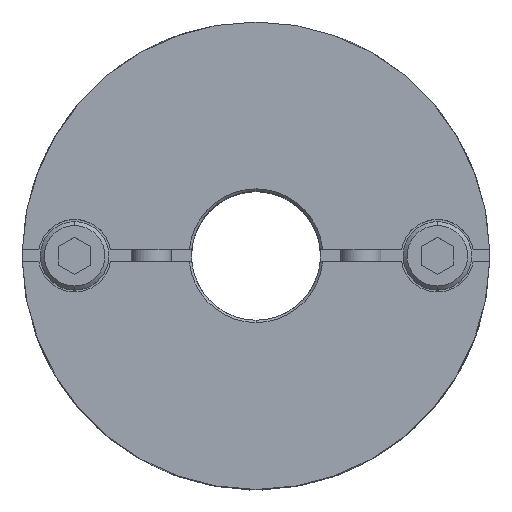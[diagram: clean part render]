
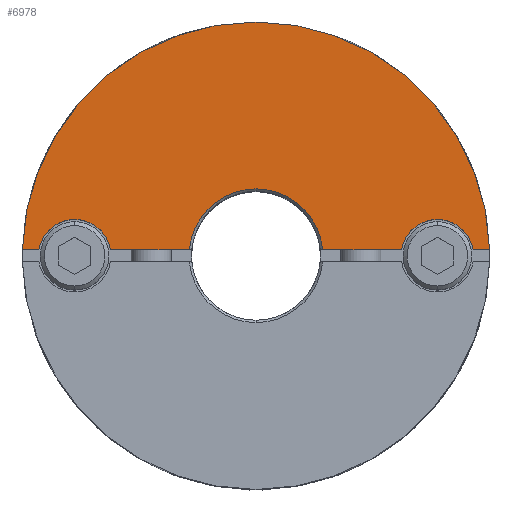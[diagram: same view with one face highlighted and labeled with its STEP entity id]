
A CAD part, top view. The second image highlights one B-rep face of the part: STEP entity #6978.
In plain terms, the highlighted planar face has unit normal (0, 0, 1).
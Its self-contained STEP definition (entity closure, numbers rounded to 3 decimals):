
#605=CARTESIAN_POINT('',(0.,29.,22.4));
#606=VERTEX_POINT('',#605);
#690=CARTESIAN_POINT('',(-28.99,0.75,22.4));
#691=VERTEX_POINT('',#690);
#698=CARTESIAN_POINT('',(0.0,0.,22.4));
#699=DIRECTION('',(0.0,0.0,-1.0));
#700=DIRECTION('',(0.0,1.0,0.0));
#701=AXIS2_PLACEMENT_3D('',#698,#699,#700);
#702=CIRCLE('',#701,29.0);
#703=EDGE_CURVE('',#691,#606,#702,.T.);
#1021=CARTESIAN_POINT('',(0.,8.3,22.4));
#1022=VERTEX_POINT('',#1021);
#1029=CARTESIAN_POINT('',(-8.266,0.75,22.4));
#1030=VERTEX_POINT('',#1029);
#1031=CARTESIAN_POINT('',(0.0,0.,22.4));
#1032=DIRECTION('',(0.0,0.0,1.0));
#1033=DIRECTION('',(0.0,-1.0,0.0));
#1034=AXIS2_PLACEMENT_3D('',#1031,#1032,#1033);
#1035=CIRCLE('',#1034,8.3);
#1036=EDGE_CURVE('',#1022,#1030,#1035,.T.);
#1099=CARTESIAN_POINT('',(-22.5,4.5,22.4));
#1100=VERTEX_POINT('',#1099);
#1109=CARTESIAN_POINT('',(-26.937,0.75,22.4));
#1110=VERTEX_POINT('',#1109);
#1111=CARTESIAN_POINT('',(-22.5,0.,22.4));
#1112=DIRECTION('',(0.0,0.0,-1.0));
#1113=DIRECTION('',(0.0,1.0,0.0));
#1114=AXIS2_PLACEMENT_3D('',#1111,#1112,#1113);
#1115=CIRCLE('',#1114,4.5);
#1116=EDGE_CURVE('',#1110,#1100,#1115,.T.);
#1183=CARTESIAN_POINT('',(22.5,4.5,22.4));
#1184=VERTEX_POINT('',#1183);
#1193=CARTESIAN_POINT('',(18.063,0.75,22.4));
#1194=VERTEX_POINT('',#1193);
#1195=CARTESIAN_POINT('',(22.5,0.,22.4));
#1196=DIRECTION('',(0.0,0.0,-1.0));
#1197=DIRECTION('',(0.0,1.0,0.0));
#1198=AXIS2_PLACEMENT_3D('',#1195,#1196,#1197);
#1199=CIRCLE('',#1198,4.5);
#1200=EDGE_CURVE('',#1194,#1184,#1199,.T.);
#6654=CARTESIAN_POINT('',(26.937,0.75,22.4));
#6655=VERTEX_POINT('',#6654);
#6662=CARTESIAN_POINT('',(22.5,0.,22.4));
#6663=DIRECTION('',(0.0,0.0,-1.0));
#6664=DIRECTION('',(0.0,1.0,0.0));
#6665=AXIS2_PLACEMENT_3D('',#6662,#6663,#6664);
#6666=CIRCLE('',#6665,4.5);
#6667=EDGE_CURVE('',#1184,#6655,#6666,.T.);
#6720=CARTESIAN_POINT('',(-18.063,0.75,22.4));
#6721=VERTEX_POINT('',#6720);
#6728=CARTESIAN_POINT('',(-22.5,0.,22.4));
#6729=DIRECTION('',(0.0,0.0,-1.0));
#6730=DIRECTION('',(0.0,1.0,0.0));
#6731=AXIS2_PLACEMENT_3D('',#6728,#6729,#6730);
#6732=CIRCLE('',#6731,4.5);
#6733=EDGE_CURVE('',#1100,#6721,#6732,.T.);
#6752=CARTESIAN_POINT('',(28.99,0.75,22.4));
#6753=VERTEX_POINT('',#6752);
#6760=CARTESIAN_POINT('',(26.937,0.75,22.4));
#6761=DIRECTION('',(1.0,0.0,0.0));
#6762=VECTOR('',#6761,2.053);
#6763=LINE('',#6760,#6762);
#6764=EDGE_CURVE('',#6655,#6753,#6763,.T.);
#6775=CARTESIAN_POINT('',(8.266,0.75,22.4));
#6776=VERTEX_POINT('',#6775);
#6777=CARTESIAN_POINT('',(8.266,0.75,22.4));
#6778=DIRECTION('',(1.0,0.0,0.0));
#6779=VECTOR('',#6778,9.797);
#6780=LINE('',#6777,#6779);
#6781=EDGE_CURVE('',#6776,#1194,#6780,.T.);
#6937=CARTESIAN_POINT('',(0.,2.636,22.4));
#6938=DIRECTION('',(0.0,0.0,1.0));
#6939=DIRECTION('',(0.0,1.0,0.0));
#6940=AXIS2_PLACEMENT_3D('',#6937,#6938,#6939);
#6941=PLANE('',#6940);
#6942=ORIENTED_EDGE('',*,*,#1200,.T.);
#6943=ORIENTED_EDGE('',*,*,#6667,.T.);
#6944=ORIENTED_EDGE('',*,*,#6764,.T.);
#6945=CARTESIAN_POINT('',(0.0,0.,22.4));
#6946=DIRECTION('',(0.0,0.0,-1.0));
#6947=DIRECTION('',(0.0,1.0,0.0));
#6948=AXIS2_PLACEMENT_3D('',#6945,#6946,#6947);
#6949=CIRCLE('',#6948,29.0);
#6950=EDGE_CURVE('',#606,#6753,#6949,.T.);
#6951=ORIENTED_EDGE('',*,*,#6950,.F.);
#6952=ORIENTED_EDGE('',*,*,#703,.F.);
#6953=CARTESIAN_POINT('',(-28.99,0.75,22.4));
#6954=DIRECTION('',(1.0,0.0,0.0));
#6955=VECTOR('',#6954,2.053);
#6956=LINE('',#6953,#6955);
#6957=EDGE_CURVE('',#691,#1110,#6956,.T.);
#6958=ORIENTED_EDGE('',*,*,#6957,.T.);
#6959=ORIENTED_EDGE('',*,*,#1116,.T.);
#6960=ORIENTED_EDGE('',*,*,#6733,.T.);
#6961=CARTESIAN_POINT('',(-18.063,0.75,22.4));
#6962=DIRECTION('',(1.0,0.0,0.0));
#6963=VECTOR('',#6962,9.797);
#6964=LINE('',#6961,#6963);
#6965=EDGE_CURVE('',#6721,#1030,#6964,.T.);
#6966=ORIENTED_EDGE('',*,*,#6965,.T.);
#6967=ORIENTED_EDGE('',*,*,#1036,.F.);
#6968=CARTESIAN_POINT('',(0.0,0.,22.4));
#6969=DIRECTION('',(0.0,0.0,1.0));
#6970=DIRECTION('',(0.0,-1.0,0.0));
#6971=AXIS2_PLACEMENT_3D('',#6968,#6969,#6970);
#6972=CIRCLE('',#6971,8.3);
#6973=EDGE_CURVE('',#6776,#1022,#6972,.T.);
#6974=ORIENTED_EDGE('',*,*,#6973,.F.);
#6975=ORIENTED_EDGE('',*,*,#6781,.T.);
#6976=EDGE_LOOP('',(#6942,#6943,#6944,#6951,#6952,#6958,#6959,#6960,#6966,#6967,#6974,#6975));
#6977=FACE_OUTER_BOUND('',#6976,.T.);
#6978=ADVANCED_FACE('',(#6977),#6941,.T.);
